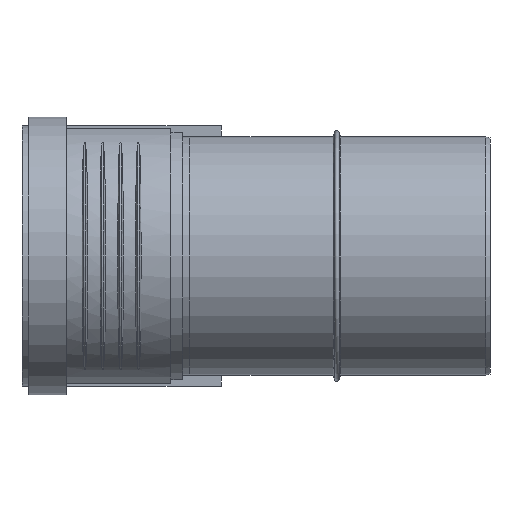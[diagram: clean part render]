
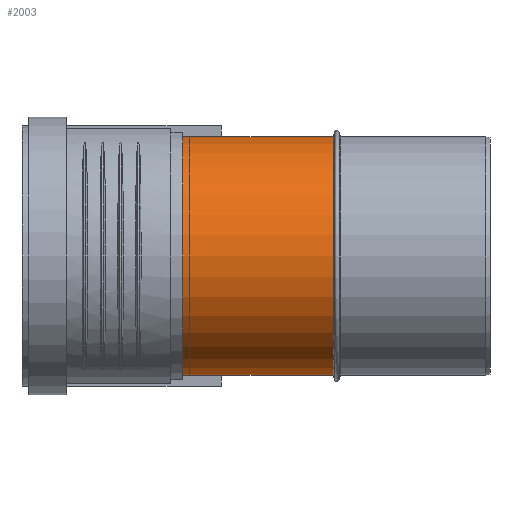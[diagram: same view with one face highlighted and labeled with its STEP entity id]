
A CAD part, left-side view. The second image highlights one B-rep face of the part: STEP entity #2003.
In plain terms, the highlighted cylindrical face has radius 55.1 mm (diameter 110.2 mm), a full revolution.
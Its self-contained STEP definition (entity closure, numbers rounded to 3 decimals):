
#262=CYLINDRICAL_SURFACE($,#2146,55.1);
#414=B_SPLINE_CURVE_WITH_KNOTS($,3,(#2974,#2975,#2976,#2977,#2978,#2979,
#2980,#2981,#2982,#2983,#2984,#2985,#2986,#2987,#2988,#2989,#2990,#2991,
#2992,#2993,#2994,#2995,#2996,#2997,#2998,#2999,#3000,#3001,#3002,#3003,
#3004,#3005,#3006,#3007,#3008,#3009,#3010,#3011,#3012,#3013,#3014,#3015,
#3016,#3017,#3018,#3019,#3020,#3021,#3022,#3023,#3024,#3025,#3026,#3027,
#3028,#3029,#3030,#3031,#3032,#3033),.UNSPECIFIED.,.T.,.F.,(4,2,2,2,2,2,
2,2,2,2,2,2,2,2,2,2,2,2,2,2,2,2,2,2,2,2,2,2,2,4),(0.,0.703,
1.405,2.811,3.482,4.153,4.592,
5.031,5.521,6.011,6.991,8.565,
9.352,10.139,10.735,11.332,11.928,
12.525,12.987,13.449,13.911,14.373,
14.835,15.297,15.759,16.221,16.817,
17.414,18.011,18.607),.UNSPECIFIED.);
#528=FACE_BOUND($,#723,.T.);
#529=FACE_BOUND($,#724,.T.);
#597=FACE_OUTER_BOUND($,#722,.T.);
#722=EDGE_LOOP($,(#1475));
#723=EDGE_LOOP($,(#1476));
#724=EDGE_LOOP($,(#1477));
#889=CIRCLE($,#2134,55.1);
#894=CIRCLE($,#2143,55.1);
#987=VERTEX_POINT($,#2955);
#992=VERTEX_POINT($,#2969);
#993=VERTEX_POINT($,#2973);
#1190=EDGE_CURVE($,#987,#987,#889,.T.);
#1195=EDGE_CURVE($,#992,#992,#894,.T.);
#1196=EDGE_CURVE($,#993,#993,#414,.T.);
#1475=ORIENTED_EDGE($,*,*,#1190,.T.);
#1476=ORIENTED_EDGE($,*,*,#1195,.T.);
#1477=ORIENTED_EDGE($,*,*,#1196,.T.);
#2003=ADVANCED_FACE($,(#597,#528,#529),#262,.T.);
#2134=AXIS2_PLACEMENT_3D($,#2956,#2375,#2376);
#2143=AXIS2_PLACEMENT_3D($,#2970,#2393,#2394);
#2146=AXIS2_PLACEMENT_3D($,#3034,#2399,#2400);
#2375=DIRECTION('center_axis',(0.,1.,0.));
#2376=DIRECTION('ref_axis',(1.,0.,0.));
#2393=DIRECTION('center_axis',(0.,-1.,0.));
#2394=DIRECTION('ref_axis',(1.,0.,0.));
#2399=DIRECTION('center_axis',(0.,1.,0.));
#2400=DIRECTION('ref_axis',(1.,0.,0.));
#2955=CARTESIAN_POINT('',(-55.1,72.4,0.));
#2956=CARTESIAN_POINT('Origin',(0.,72.4,0.));
#2969=CARTESIAN_POINT('',(55.1,145.54,0.));
#2970=CARTESIAN_POINT('Origin',(0.,145.54,0.));
#2973=CARTESIAN_POINT('',(49.064,101.904,25.075));
#2974=CARTESIAN_POINT('Ctrl Pts',(49.064,101.904,25.075));
#2975=CARTESIAN_POINT('Ctrl Pts',(49.064,104.246,25.075));
#2976=CARTESIAN_POINT('Ctrl Pts',(49.149,106.68,24.91));
#2977=CARTESIAN_POINT('Ctrl Pts',(49.474,111.592,24.258));
#2978=CARTESIAN_POINT('Ctrl Pts',(49.713,114.071,23.772));
#2979=CARTESIAN_POINT('Ctrl Pts',(50.591,121.376,21.875));
#2980=CARTESIAN_POINT('Ctrl Pts',(51.392,126.071,20.019));
#2981=CARTESIAN_POINT('Ctrl Pts',(52.541,132.001,16.638));
#2982=CARTESIAN_POINT('Ctrl Pts',(52.958,134.018,15.297));
#2983=CARTESIAN_POINT('Ctrl Pts',(53.755,137.682,12.205));
#2984=CARTESIAN_POINT('Ctrl Pts',(54.132,139.326,10.45));
#2985=CARTESIAN_POINT('Ctrl Pts',(54.613,141.379,7.41));
#2986=CARTESIAN_POINT('Ctrl Pts',(54.792,142.129,6.003));
#2987=CARTESIAN_POINT('Ctrl Pts',(55.037,143.143,3.031));
#2988=CARTESIAN_POINT('Ctrl Pts',(55.1,143.401,1.463));
#2989=CARTESIAN_POINT('Ctrl Pts',(55.1,143.401,-1.633));
#2990=CARTESIAN_POINT('Ctrl Pts',(55.026,143.101,-3.233));
#2991=CARTESIAN_POINT('Ctrl Pts',(54.761,141.999,-6.29));
#2992=CARTESIAN_POINT('Ctrl Pts',(54.57,141.199,-7.748));
#2993=CARTESIAN_POINT('Ctrl Pts',(53.888,138.272,-11.82));
#2994=CARTESIAN_POINT('Ctrl Pts',(53.29,135.607,-14.136));
#2995=CARTESIAN_POINT('Ctrl Pts',(51.861,128.67,-18.861));
#2996=CARTESIAN_POINT('Ctrl Pts',(50.916,123.534,-21.131));
#2997=CARTESIAN_POINT('Ctrl Pts',(49.861,115.465,-23.465));
#2998=CARTESIAN_POINT('Ctrl Pts',(49.57,112.715,-24.063));
#2999=CARTESIAN_POINT('Ctrl Pts',(49.171,107.246,-24.868));
#3000=CARTESIAN_POINT('Ctrl Pts',(49.064,104.527,-25.075));
#3001=CARTESIAN_POINT('Ctrl Pts',(49.064,99.915,-25.075));
#3002=CARTESIAN_POINT('Ctrl Pts',(49.126,97.84,-24.956));
#3003=CARTESIAN_POINT('Ctrl Pts',(49.411,93.697,-24.387));
#3004=CARTESIAN_POINT('Ctrl Pts',(49.634,91.629,-23.937));
#3005=CARTESIAN_POINT('Ctrl Pts',(50.233,87.67,-22.652));
#3006=CARTESIAN_POINT('Ctrl Pts',(50.609,85.775,-21.816));
#3007=CARTESIAN_POINT('Ctrl Pts',(51.446,82.304,-19.761));
#3008=CARTESIAN_POINT('Ctrl Pts',(51.906,80.727,-18.542));
#3009=CARTESIAN_POINT('Ctrl Pts',(52.703,78.295,-16.113));
#3010=CARTESIAN_POINT('Ctrl Pts',(53.062,77.305,-14.91));
#3011=CARTESIAN_POINT('Ctrl Pts',(53.732,75.573,-12.277));
#3012=CARTESIAN_POINT('Ctrl Pts',(54.043,74.83,-10.847));
#3013=CARTESIAN_POINT('Ctrl Pts',(54.559,73.644,-7.853));
#3014=CARTESIAN_POINT('Ctrl Pts',(54.763,73.199,-6.287));
#3015=CARTESIAN_POINT('Ctrl Pts',(55.034,72.617,-3.13));
#3016=CARTESIAN_POINT('Ctrl Pts',(55.1,72.479,-1.54));
#3017=CARTESIAN_POINT('Ctrl Pts',(55.1,72.479,1.54));
#3018=CARTESIAN_POINT('Ctrl Pts',(55.034,72.617,3.13));
#3019=CARTESIAN_POINT('Ctrl Pts',(54.763,73.199,6.287));
#3020=CARTESIAN_POINT('Ctrl Pts',(54.559,73.644,7.853));
#3021=CARTESIAN_POINT('Ctrl Pts',(54.043,74.83,10.847));
#3022=CARTESIAN_POINT('Ctrl Pts',(53.732,75.573,12.277));
#3023=CARTESIAN_POINT('Ctrl Pts',(53.062,77.305,14.91));
#3024=CARTESIAN_POINT('Ctrl Pts',(52.703,78.295,16.113));
#3025=CARTESIAN_POINT('Ctrl Pts',(51.906,80.727,18.542));
#3026=CARTESIAN_POINT('Ctrl Pts',(51.446,82.304,19.761));
#3027=CARTESIAN_POINT('Ctrl Pts',(50.609,85.775,21.816));
#3028=CARTESIAN_POINT('Ctrl Pts',(50.233,87.67,22.652));
#3029=CARTESIAN_POINT('Ctrl Pts',(49.634,91.629,23.937));
#3030=CARTESIAN_POINT('Ctrl Pts',(49.411,93.697,24.387));
#3031=CARTESIAN_POINT('Ctrl Pts',(49.126,97.84,24.956));
#3032=CARTESIAN_POINT('Ctrl Pts',(49.064,99.915,25.075));
#3033=CARTESIAN_POINT('Ctrl Pts',(49.064,101.904,25.075));
#3034=CARTESIAN_POINT('Origin',(0.,0.,0.));
